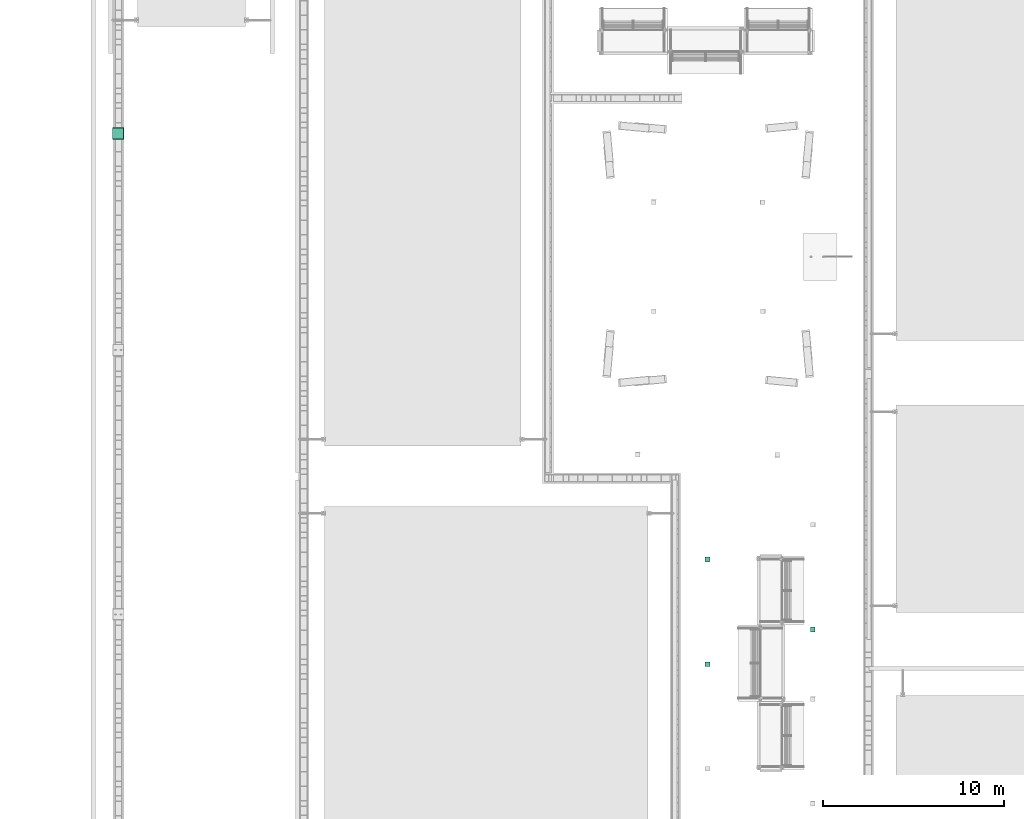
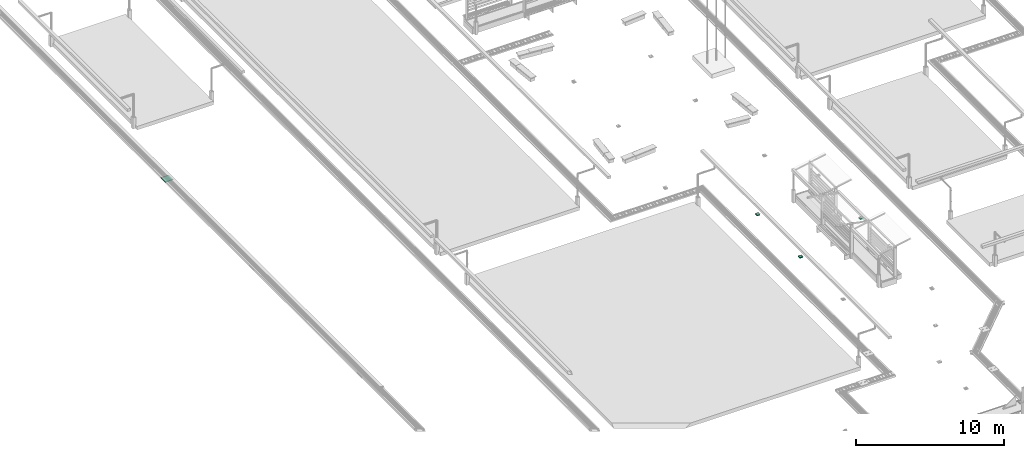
# One storey, part 53 of 90: 3 flow terminals, 2 distribution chamber elements.
"""IFC2X3 building model written with IfcOpenShell, lengths in metres."""

from ifc_helpers import new_model, si_unit, origin, origin_with_axes, place, context, subcontext, project, spatial, faceted_brep, element, save


model = new_model("IFC2X3")

# Units and contexts
model_context = context("Model", 3, precision=1e-05, world=origin_with_axes())
body_context = subcontext(model_context, "Body", "Model", "MODEL_VIEW")
ifc_project = project(units=[si_unit("LENGTHUNIT", "METRE"), si_unit("AREAUNIT", "SQUARE_METRE"), si_unit("VOLUMEUNIT", "CUBIC_METRE"), si_unit("PLANEANGLEUNIT", "RADIAN")], contexts=[model_context])

# Site, building, storey
site_placement = place(None, origin_with_axes())
site = spatial("IfcSite", under=ifc_project, at=site_placement, Name="Predio Los Mangos - Morales, San Martín", CompositionType="ELEMENT")
building_placement = place(site_placement, origin())
building = spatial("IfcBuilding", under=site, at=building_placement, Name="Hogar de Refugio Temporal", CompositionType="ELEMENT")
storey_placement = place(building_placement, origin())
storey = spatial("IfcBuildingStorey", under=building, at=storey_placement, Name="NIVEL 1 (NPT +0.00)", CompositionType="ELEMENT", Elevation=0.0)

# Flow terminals
flow_terminal_1_placement = place(storey_placement, origin())
element("IfcFlowTerminal", 1, at=flow_terminal_1_placement, inside=storey, Name="sumidero_fondo", ObjectType="Sumidero con rejilla", context=body_context, shape_type="Brep", body=[
    faceted_brep([(40.585, 41.829, -0.02), (40.585, 42.079, -0.02), (40.835, 42.079, -0.02), (40.835, 41.829, -0.02), (40.585, 41.829, 0.064), (40.835, 41.829, 0.064), (40.835, 42.079, 0.064), (40.585, 42.079, 0.064)], [[[0, 1, 2, 3]], [[4, 5, 6, 7]], [[0, 3, 5, 4]], [[3, 2, 6, 5]], [[2, 1, 7, 6]], [[1, 0, 4, 7]]]),
])
flow_terminal_2_placement = place(storey_placement, origin())
element("IfcFlowTerminal", 2, at=flow_terminal_2_placement, inside=storey, Name="sumidero_fondo", ObjectType="Sumidero con rejilla", context=body_context, shape_type="Brep", body=[
    faceted_brep([(34.772, 45.694, -0.02), (34.772, 45.944, -0.02), (35.022, 45.944, -0.02), (35.022, 45.694, -0.02), (34.772, 45.694, 0.064), (35.022, 45.694, 0.064), (35.022, 45.944, 0.064), (34.772, 45.944, 0.064)], [[[0, 1, 2, 3]], [[4, 5, 6, 7]], [[0, 3, 5, 4]], [[3, 2, 6, 5]], [[2, 1, 7, 6]], [[1, 0, 4, 7]]]),
])
flow_terminal_3_placement = place(storey_placement, origin())
element("IfcFlowTerminal", 3, at=flow_terminal_3_placement, inside=storey, Name="sumidero_fondo", ObjectType="Sumidero con rejilla", context=body_context, shape_type="Brep", body=[
    faceted_brep([(34.772, 39.919, -0.02), (34.772, 40.169, -0.02), (35.022, 40.169, -0.02), (35.022, 39.919, -0.02), (34.772, 39.919, 0.064), (35.022, 39.919, 0.064), (35.022, 40.169, 0.064), (34.772, 40.169, 0.064)], [[[0, 1, 2, 3]], [[4, 5, 6, 7]], [[0, 3, 5, 4]], [[3, 2, 6, 5]], [[2, 1, 7, 6]], [[1, 0, 4, 7]]]),
])

# Distribution chamber elements
distribution_chamber_element_1_placement = place(storey_placement, origin())
element("IfcDistributionChamberElement", 4, at=distribution_chamber_element_1_placement, inside=storey, Name="tapa_insp_junta", ObjectType="Tapa de inspección", context=body_context, shape_type="Brep", body=[
    faceted_brep([(2.092, 68.972, 0.082), (2.092, 69.612, 0.082), (2.732, 69.612, 0.082), (2.732, 68.972, 0.082), (2.092, 68.972, 0.096), (2.732, 68.972, 0.096), (2.732, 69.612, 0.096), (2.092, 69.612, 0.096)], [[[0, 1, 2, 3]], [[4, 5, 6, 7]], [[0, 3, 5, 4]], [[3, 2, 6, 5]], [[2, 1, 7, 6]], [[1, 0, 4, 7]]]),
])
distribution_chamber_element_2_placement = place(storey_placement, origin())
element("IfcDistributionChamberElement", 5, at=distribution_chamber_element_2_placement, inside=storey, Name="tapa_inspeccion", ObjectType="Tapa de inspección", context=body_context, shape_type="Brep", body=[
    faceted_brep([(2.112, 68.992, 0.082), (2.112, 69.592, 0.082), (2.712, 69.592, 0.082), (2.712, 68.992, 0.082), (2.112, 68.992, 0.104), (2.712, 68.992, 0.104), (2.712, 69.592, 0.104), (2.112, 69.592, 0.104)], [[[0, 1, 2, 3]], [[4, 5, 6, 7]], [[0, 3, 5, 4]], [[3, 2, 6, 5]], [[2, 1, 7, 6]], [[1, 0, 4, 7]]]),
])

save(model, "model.ifc")
